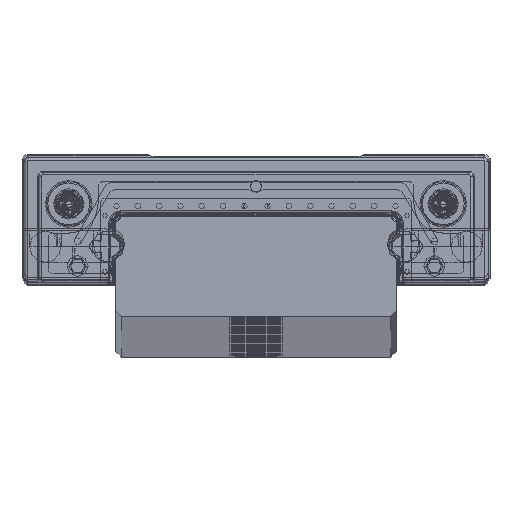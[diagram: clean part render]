
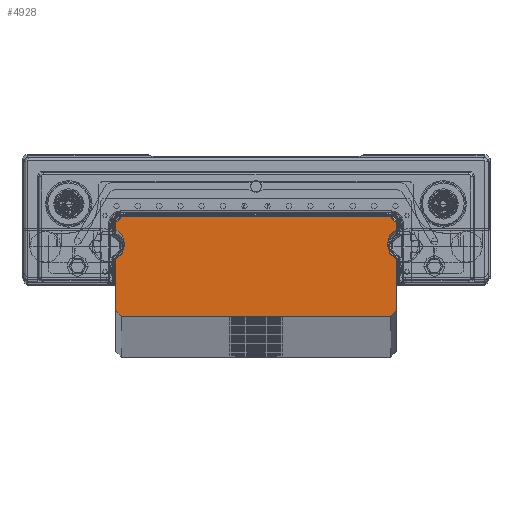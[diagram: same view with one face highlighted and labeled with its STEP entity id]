
A CAD part, top view. The second image highlights one B-rep face of the part: STEP entity #4928.
In plain terms, the highlighted planar face has unit normal (0, 0, 1).
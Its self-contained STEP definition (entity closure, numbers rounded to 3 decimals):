
#1=DIRECTION('',(0.,-1.,0.));
#2=VECTOR('',#1,0.598);
#3=CARTESIAN_POINT('',(-11.98,1.85,0.));
#4=LINE('',#3,#2);
#5=DIRECTION('',(-0.707,-0.707,0.));
#6=VECTOR('',#5,0.707);
#7=CARTESIAN_POINT('',(-11.48,2.35,0.));
#8=LINE('',#7,#6);
#9=DIRECTION('',(-1.,0.,0.));
#10=VECTOR('',#9,22.96);
#11=CARTESIAN_POINT('',(11.48,2.35,0.));
#12=LINE('',#11,#10);
#13=DIRECTION('',(-0.707,0.707,0.));
#14=VECTOR('',#13,0.707);
#15=CARTESIAN_POINT('',(11.98,1.85,0.));
#16=LINE('',#15,#14);
#17=DIRECTION('',(0.,1.,0.));
#18=VECTOR('',#17,0.598);
#19=CARTESIAN_POINT('',(11.98,1.252,0.));
#20=LINE('',#19,#18);
#21=DIRECTION('',(0.,1.,0.));
#22=VECTOR('',#21,4.388);
#23=CARTESIAN_POINT('',(12.,-5.65,0.));
#24=LINE('',#23,#22);
#25=DIRECTION('',(0.707,0.707,0.));
#26=VECTOR('',#25,0.707);
#27=CARTESIAN_POINT('',(11.5,-6.15,0.));
#28=LINE('',#27,#26);
#29=DIRECTION('',(0.707,-0.707,0.));
#30=VECTOR('',#29,0.707);
#31=CARTESIAN_POINT('',(-12.,-5.65,0.));
#32=LINE('',#31,#30);
#33=DIRECTION('',(0.,-1.,0.));
#34=VECTOR('',#33,4.388);
#35=CARTESIAN_POINT('',(-12.,-1.262,0.));
#36=LINE('',#35,#34);
#37=CARTESIAN_POINT('',(-12.606,0.,0.));
#38=DIRECTION('',(0.,0.,-1.));
#39=DIRECTION('',(0.447,0.894,0.));
#40=AXIS2_PLACEMENT_3D('',#37,#38,#39);
#63=DIRECTION('',(1.,0.,0.));
#64=VECTOR('',#63,23.);
#65=CARTESIAN_POINT('',(-11.5,-6.15,0.));
#66=LINE('',#65,#64);
#620=CARTESIAN_POINT('',(12.606,0.,0.));
#621=DIRECTION('',(0.,0.,-1.));
#622=DIRECTION('',(-0.433,-0.901,0.));
#623=AXIS2_PLACEMENT_3D('',#620,#621,#622);
#3849=CARTESIAN_POINT('',(-11.48,2.35,0.));
#3850=CARTESIAN_POINT('',(-11.98,1.85,0.));
#3851=VERTEX_POINT('',#3849);
#3852=VERTEX_POINT('',#3850);
#3853=CARTESIAN_POINT('',(11.98,1.85,0.));
#3854=CARTESIAN_POINT('',(11.48,2.35,0.));
#3855=VERTEX_POINT('',#3853);
#3856=VERTEX_POINT('',#3854);
#3857=CARTESIAN_POINT('',(11.5,-6.15,0.));
#3858=CARTESIAN_POINT('',(12.,-5.65,0.));
#3859=VERTEX_POINT('',#3857);
#3860=VERTEX_POINT('',#3858);
#3861=CARTESIAN_POINT('',(-12.,-5.65,0.));
#3862=CARTESIAN_POINT('',(-11.5,-6.15,0.));
#3863=VERTEX_POINT('',#3861);
#3864=VERTEX_POINT('',#3862);
#4882=CARTESIAN_POINT('',(-11.98,1.252,0.));
#4884=VERTEX_POINT('',#4882);
#4886=CARTESIAN_POINT('',(11.98,1.252,0.));
#4888=VERTEX_POINT('',#4886);
#4890=CARTESIAN_POINT('',(12.,-1.262,0.));
#4892=VERTEX_POINT('',#4890);
#4894=CARTESIAN_POINT('',(-12.,-1.262,0.));
#4896=VERTEX_POINT('',#4894);
#4897=CARTESIAN_POINT('',(0.,0.,0.));
#4898=DIRECTION('',(0.,0.,1.));
#4899=DIRECTION('',(1.,0.,0.));
#4900=AXIS2_PLACEMENT_3D('',#4897,#4898,#4899);
#4901=PLANE('',#4900);
#4903=ORIENTED_EDGE('',*,*,#4902,.F.);
#4905=ORIENTED_EDGE('',*,*,#4904,.F.);
#4907=ORIENTED_EDGE('',*,*,#4906,.F.);
#4909=ORIENTED_EDGE('',*,*,#4908,.F.);
#4911=ORIENTED_EDGE('',*,*,#4910,.F.);
#4913=ORIENTED_EDGE('',*,*,#4912,.F.);
#4915=ORIENTED_EDGE('',*,*,#4914,.F.);
#4917=ORIENTED_EDGE('',*,*,#4916,.F.);
#4919=ORIENTED_EDGE('',*,*,#4918,.F.);
#4921=ORIENTED_EDGE('',*,*,#4920,.F.);
#4923=ORIENTED_EDGE('',*,*,#4922,.F.);
#4925=ORIENTED_EDGE('',*,*,#4924,.F.);
#4926=EDGE_LOOP('',(#4903,#4905,#4907,#4909,#4911,#4913,#4915,#4917,#4919,#4921,
#4923,#4925));
#4927=FACE_OUTER_BOUND('',#4926,.F.);
#4928=ADVANCED_FACE('',(#4927),#4901,.T.);
#41=CIRCLE('',#40,1.4);
#624=CIRCLE('',#623,1.4);
#4902=EDGE_CURVE('',#4884,#4896,#41,.T.);
#4904=EDGE_CURVE('',#3852,#4884,#4,.T.);
#4906=EDGE_CURVE('',#3851,#3852,#8,.T.);
#4908=EDGE_CURVE('',#3856,#3851,#12,.T.);
#4910=EDGE_CURVE('',#3855,#3856,#16,.T.);
#4912=EDGE_CURVE('',#4888,#3855,#20,.T.);
#4914=EDGE_CURVE('',#4892,#4888,#624,.T.);
#4916=EDGE_CURVE('',#3860,#4892,#24,.T.);
#4918=EDGE_CURVE('',#3859,#3860,#28,.T.);
#4920=EDGE_CURVE('',#3864,#3859,#66,.T.);
#4922=EDGE_CURVE('',#3863,#3864,#32,.T.);
#4924=EDGE_CURVE('',#4896,#3863,#36,.T.);
